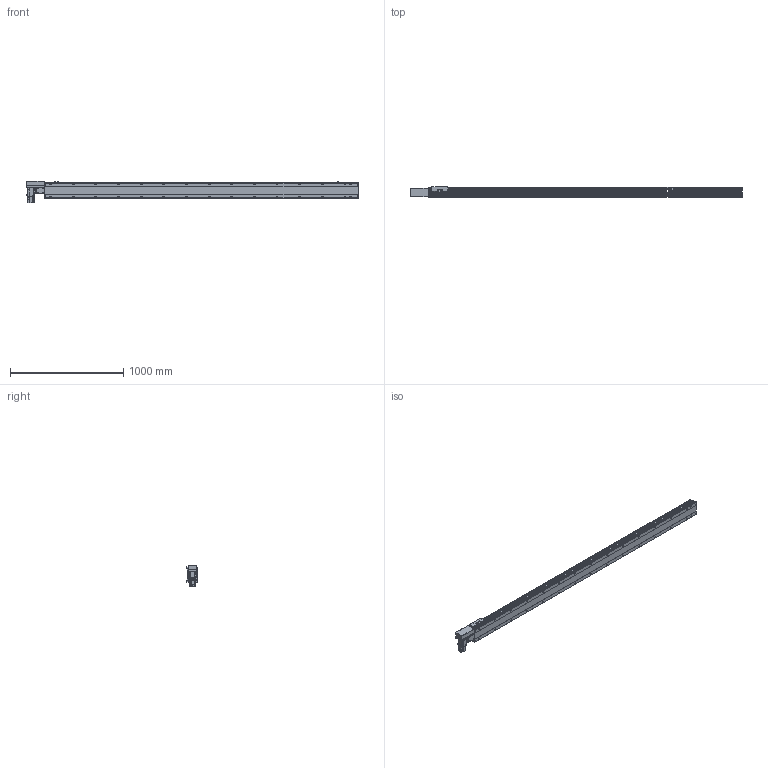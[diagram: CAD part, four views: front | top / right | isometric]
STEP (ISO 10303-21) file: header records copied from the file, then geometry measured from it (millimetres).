
FILE_DESCRIPTION(/* description */ ('STEP AP214'),/* implementation_level */ '2;1');
FILE_NAME(/* name */ 'PBS140S-P40-S2500-R-T40-C1-N(0)',/* time_stamp */ '2022-06-09T02:19:49+02:00',/* author */ ('License CC BY-ND 4.0'),/* organization */ ('CADENAS'),/* preprocessor_version */ 'ST-DEVELOPER v18.102',/* originating_system */ 'PARTsolutions',/* authorisation */ ' ');
FILE_SCHEMA (('AUTOMOTIVE_DESIGN {1 0 10303 214 3 1 1}'));
Length unit declared in the file: millimetre
Products named in the file (7): PBS140S-P40-S2500-R-T40-C1-N(0); PBS140S_sensor; PBS140S_plant; PBS140S_sliser; T40-p1; PBS140ST-R_motors; PBS140S-S2500()_body
Assembly tree (8 placements, depth 2):
  PBS140S-P40-S2500-R-T40-C1-N(0)
    PBS140S_sensor  x3
    PBS140S_plant
    PBS140S_sliser
    T40-p1
    PBS140ST-R_motors
    PBS140S-S2500()_body
Bounding box: 2933 x 93 x 189.7 mm (x, y, z)
Volume: 13868372.1 mm3; surface area: 2337522.8 mm2
Topology: 8 solids, 8 shells, 1211 faces, 3191 edges, 2087 vertices
Faces by surface type: plane 744, cylinder 401, cone 56, sphere 8, torus 2
Full cylindrical faces by diameter (mm): 3.242 x4, 4 x2, 4.134 x4, 4.4 x8, 4.5 x2, 4.8 x4, 4.917 x38, 5.5 x7, 6 x2, 7 x32, 7.5 x8, 8 x12, 8.5 x4, 10.5 x30, 14 x1, 30 x2, 50 x2
Entity records: 34702 total; most frequent: CARTESIAN_POINT 6600, DIRECTION 5838, ORIENTED_EDGE 5482, EDGE_CURVE 2741, AXIS2_PLACEMENT_3D 2069, VERTEX_POINT 1921, LINE 1700, VECTOR 1700
